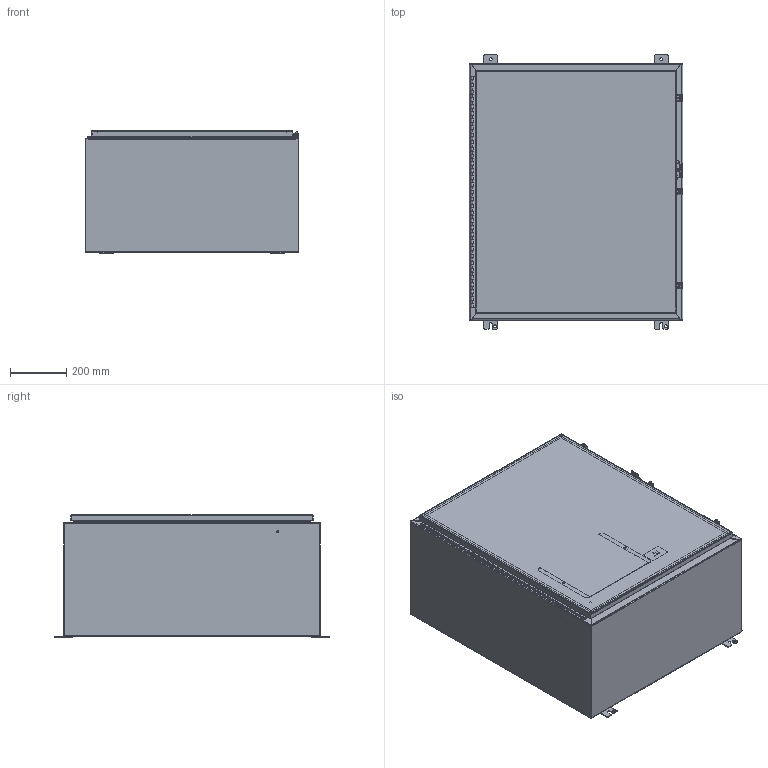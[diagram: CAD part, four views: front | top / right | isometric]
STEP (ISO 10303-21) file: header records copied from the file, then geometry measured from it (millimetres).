
FILE_DESCRIPTION((''),'2;1');
FILE_NAME('MODEL-303_ASM','2026-04-07T16:14:47',('ChadS'),('SAGINAW CONTROL & ENGINEERING'),'CREO PARAMETRIC BY PTC INC, 2021284','CREO PARAMETRIC BY PTC INC, 2021284','');
FILE_SCHEMA(('AUTOMOTIVE_DESIGN { 1 0 10303 214 1 1 1 1 }'));
Length unit declared in the file: inch
Products named in the file (30): MODEL-303-BDY; MODEL-303-TP; MODEL-303-BTM; MODEL-303-DR; 100837; 100882; 111267; 125597; 118921_DR; 118921_PIN; 118921_BX; 118921_STUD; 118921_ASM; 100897; MODEL-303-DOOR-GASKET; 128600; 102483; MODEL-303-DOOR-ASSY_ASM; 102211; 101653; 121453; 120131_BASE; 120131_CLAMP; 120131_SCREW; 120131_CLOSED_ASM; 120134; SUBPANEL; 100904; SUBPANEL-SUBASSEMBLY_ASM; MODEL-303_ASM
Assembly tree (60 placements, depth 4):
  MODEL-303_ASM
    MODEL-303-BDY
    MODEL-303-TP
    MODEL-303-BTM
    MODEL-303-DOOR-ASSY_ASM
      MODEL-303-DR
      100837  x3
      100882  x2
      111267
      125597
      118921_ASM
        118921_DR
        118921_PIN
        118921_BX
        118921_STUD  x5
      100897  x5
      MODEL-303-DOOR-GASKET
      128600
      102483
    102211  x4
    100837
    101653  x6
    121453
    120131_CLOSED_ASM  x3
      120131_BASE
      120131_CLAMP
      120131_SCREW
    100882  x4
    120134
    SUBPANEL-SUBASSEMBLY_ASM
      SUBPANEL
      100904  x6
Bounding box: 762 x 977.9 x 437.08 mm (x, y, z)
Volume: 8137894 mm3; surface area: 7569475.7 mm2
Topology: 59 solids, 59 shells, 4410 faces, 11452 edges, 7209 vertices
Faces by surface type: plane 1798, bspline 1131, cylinder 978, torus 268, sphere 127, cone 108
Entity records: 104079 total; most frequent: CARTESIAN_POINT 31787, ORIENTED_EDGE 10798, DIRECTION 9865, PRESENTATION_STYLE_ASSIGNMENT 5530, STYLED_ITEM 5528, CURVE_STYLE 5399, EDGE_CURVE 5399, VERTEX_POINT 3408
